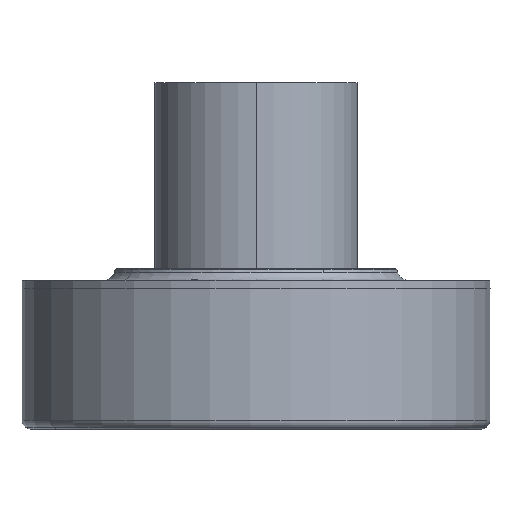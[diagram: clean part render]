
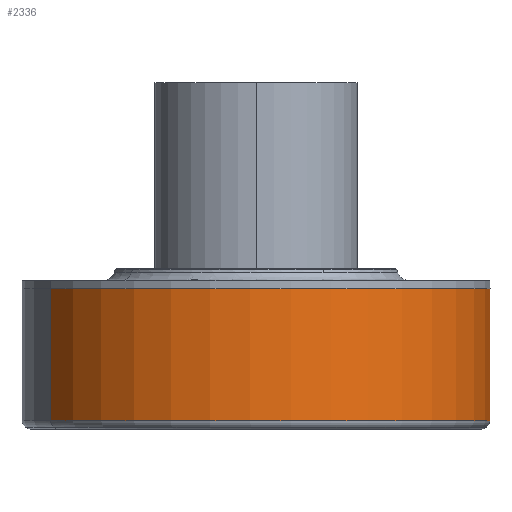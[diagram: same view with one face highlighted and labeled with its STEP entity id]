
A CAD part, left-side view. The second image highlights one B-rep face of the part: STEP entity #2336.
In plain terms, the highlighted face is a revolution surface.
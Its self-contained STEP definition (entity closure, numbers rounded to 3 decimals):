
#2166=AXIS2_PLACEMENT_3D('Circle Axis2P3D',#2164,#2165,$) ;
#2274=AXIS2_PLACEMENT_3D('Circle Axis2P3D',#2272,#2273,$) ;
#2159=CARTESIAN_POINT('Vertex',(4.794,-8.776,6.)) ;
#2161=CARTESIAN_POINT('Vertex',(-4.794,8.776,6.)) ;
#2164=CARTESIAN_POINT('Axis2P3D Location',(0.,0.,6.)) ;
#2269=CARTESIAN_POINT('Vertex',(4.794,-8.776,0.354)) ;
#2272=CARTESIAN_POINT('Axis2P3D Location',(0.,0.,0.354)) ;
#2276=CARTESIAN_POINT('Vertex',(-4.794,8.776,0.354)) ;
#2304=CARTESIAN_POINT('Control Point',(0.,10.,0.355)) ;
#2305=CARTESIAN_POINT('Control Point',(0.,10.,1.484)) ;
#2306=CARTESIAN_POINT('Control Point',(0.,10.,2.613)) ;
#2307=CARTESIAN_POINT('Control Point',(0.,10.,3.742)) ;
#2308=CARTESIAN_POINT('Control Point',(0.,10.,4.871)) ;
#2309=CARTESIAN_POINT('Control Point',(0.,10.,6.)) ;
#2310=CARTESIAN_POINT('Axis1P Location',(0.,0.,0.056)) ;
#2315=CARTESIAN_POINT('Control Point',(4.794,-8.776,0.355)) ;
#2316=CARTESIAN_POINT('Control Point',(4.794,-8.776,1.484)) ;
#2317=CARTESIAN_POINT('Control Point',(4.794,-8.776,2.613)) ;
#2318=CARTESIAN_POINT('Control Point',(4.794,-8.776,3.742)) ;
#2319=CARTESIAN_POINT('Control Point',(4.794,-8.776,4.871)) ;
#2320=CARTESIAN_POINT('Control Point',(4.794,-8.776,6.)) ;
#2323=CARTESIAN_POINT('Control Point',(-4.794,8.776,0.355)) ;
#2324=CARTESIAN_POINT('Control Point',(-4.794,8.776,1.484)) ;
#2325=CARTESIAN_POINT('Control Point',(-4.794,8.776,2.613)) ;
#2326=CARTESIAN_POINT('Control Point',(-4.794,8.776,3.742)) ;
#2327=CARTESIAN_POINT('Control Point',(-4.794,8.776,4.871)) ;
#2328=CARTESIAN_POINT('Control Point',(-4.794,8.776,6.)) ;
#2165=DIRECTION('Axis2P3D Direction',(0.,0.,1.)) ;
#2273=DIRECTION('Axis2P3D Direction',(0.,0.,1.)) ;
#2311=DIRECTION('Axis1P Direction',(0.,0.,1.)) ;
#2312=AXIS1_PLACEMENT('Revolution Surface Axis1P',#2310,#2311) ;
#2331=ORIENTED_EDGE('',*,*,#2321,.T.) ;
#2332=ORIENTED_EDGE('',*,*,#2168,.F.) ;
#2333=ORIENTED_EDGE('',*,*,#2329,.F.) ;
#2334=ORIENTED_EDGE('',*,*,#2278,.T.) ;
#2336=ADVANCED_FACE('CUT',(#2335),#2313,.T.) ;
#2303=B_SPLINE_CURVE_WITH_KNOTS('',5,(#2304,#2305,#2306,#2307,#2308,#2309),.UNSPECIFIED.,.F.,.U.,(6,6),(0.,5.645),.UNSPECIFIED.) ;
#2314=B_SPLINE_CURVE_WITH_KNOTS('',5,(#2315,#2316,#2317,#2318,#2319,#2320),.UNSPECIFIED.,.F.,.U.,(6,6),(0.,5.645),.UNSPECIFIED.) ;
#2322=B_SPLINE_CURVE_WITH_KNOTS('',5,(#2323,#2324,#2325,#2326,#2327,#2328),.UNSPECIFIED.,.F.,.U.,(6,6),(0.,5.645),.UNSPECIFIED.) ;
#2167=CIRCLE('generated circle',#2166,10.) ;
#2275=CIRCLE('generated circle',#2274,10.) ;
#2168=EDGE_CURVE('',#2162,#2160,#2167,.T.) ;
#2278=EDGE_CURVE('',#2277,#2270,#2275,.T.) ;
#2321=EDGE_CURVE('',#2270,#2160,#2314,.T.) ;
#2329=EDGE_CURVE('',#2277,#2162,#2322,.T.) ;
#2330=EDGE_LOOP('',(#2331,#2332,#2333,#2334)) ;
#2335=FACE_OUTER_BOUND('',#2330,.T.) ;
#2313=SURFACE_OF_REVOLUTION('Surface of Revolution',#2303,#2312) ;
#2160=VERTEX_POINT('',#2159) ;
#2162=VERTEX_POINT('',#2161) ;
#2270=VERTEX_POINT('',#2269) ;
#2277=VERTEX_POINT('',#2276) ;
